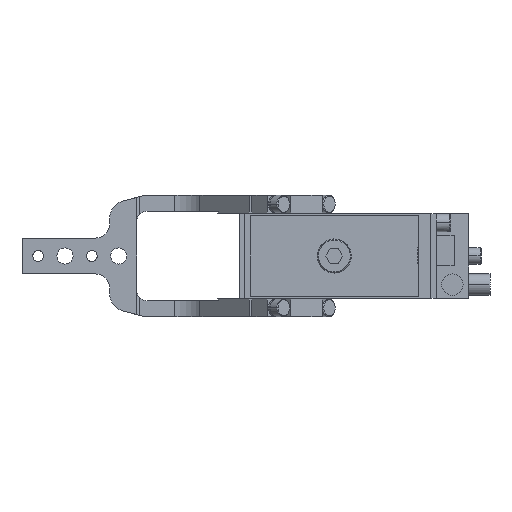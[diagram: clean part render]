
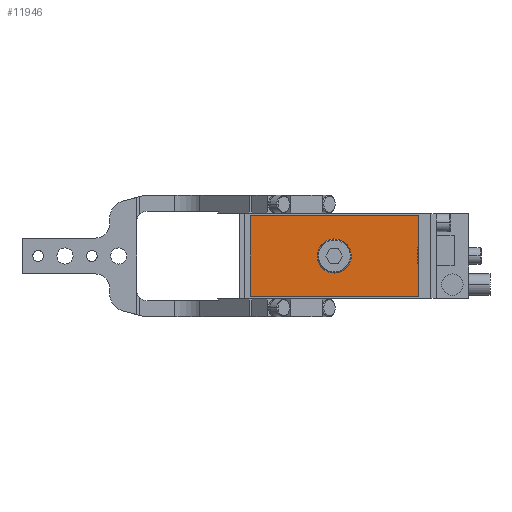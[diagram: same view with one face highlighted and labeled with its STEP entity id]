
A CAD part, left-side view. The second image highlights one B-rep face of the part: STEP entity #11946.
In plain terms, the highlighted planar face has unit normal (-1, 0, 0).
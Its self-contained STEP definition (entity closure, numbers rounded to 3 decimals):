
#73 = DIRECTION ( 'NONE',  ( 0., 0., 1. ) ) ;
#362 = EDGE_LOOP ( 'NONE', ( #12065, #5369, #5264, #2883, #401 ) ) ;
#401 = ORIENTED_EDGE ( 'NONE', *, *, #3123, .T. ) ;
#1135 = VECTOR ( 'NONE', #9761, 1000. ) ;
#1677 = DIRECTION ( 'NONE',  ( 0., -1., 0. ) ) ;
#1744 = CARTESIAN_POINT ( 'NONE',  ( -269.5, -30.5, 0. ) ) ;
#1824 = LINE ( 'NONE', #5804, #1135 ) ;
#1926 = VERTEX_POINT ( 'NONE', #8111 ) ;
#1969 = LINE ( 'NONE', #8988, #7323 ) ;
#2206 = VERTEX_POINT ( 'NONE', #8626 ) ;
#2208 = DIRECTION ( 'NONE',  ( -1., 0., 0. ) ) ;
#2486 = LINE ( 'NONE', #6461, #5563 ) ;
#2665 = AXIS2_PLACEMENT_3D ( 'NONE', #1744, #5722, #1677 ) ;
#2712 = CARTESIAN_POINT ( 'NONE',  ( -269.5, -30.5, -22.5 ) ) ;
#2831 = VECTOR ( 'NONE', #7676, 1000. ) ;
#2883 = ORIENTED_EDGE ( 'NONE', *, *, #7032, .T. ) ;
#3076 = AXIS2_PLACEMENT_3D ( 'NONE', #7945, #2208, #12100 ) ;
#3123 = EDGE_CURVE ( 'NONE', #11519, #3255, #1969, .T. ) ;
#3255 = VERTEX_POINT ( 'NONE', #6420 ) ;
#3369 = CARTESIAN_POINT ( 'NONE',  ( -269.5, -22.163, 4.555 ) ) ;
#3688 = CARTESIAN_POINT ( 'NONE',  ( -269.5, -77.5, 11.25 ) ) ;
#3821 = EDGE_CURVE ( 'NONE', #1926, #9898, #1824, .T. ) ;
#4693 = DIRECTION ( 'NONE',  ( 0., -1., 0. ) ) ;
#4975 = CARTESIAN_POINT ( 'NONE',  ( -269.5, -77.5, -22.5 ) ) ;
#5115 = ORIENTED_EDGE ( 'NONE', *, *, #12113, .F. ) ;
#5264 = ORIENTED_EDGE ( 'NONE', *, *, #5753, .T. ) ;
#5323 = AXIS2_PLACEMENT_3D ( 'NONE', #11612, #6657, #4693 ) ;
#5369 = ORIENTED_EDGE ( 'NONE', *, *, #3821, .T. ) ;
#5558 = VERTEX_POINT ( 'NONE', #3369 ) ;
#5563 = VECTOR ( 'NONE', #7495, 1000. ) ;
#5722 = DIRECTION ( 'NONE',  ( -1., 0., 0. ) ) ;
#5753 = EDGE_CURVE ( 'NONE', #9898, #8904, #2486, .T. ) ;
#5804 = CARTESIAN_POINT ( 'NONE',  ( -269.5, -30.5, 22.5 ) ) ;
#6295 = EDGE_LOOP ( 'NONE', ( #7694, #5115 ) ) ;
#6420 = CARTESIAN_POINT ( 'NONE',  ( -269.5, -77.5, 0. ) ) ;
#6461 = CARTESIAN_POINT ( 'NONE',  ( -269.5, 16.5, 0. ) ) ;
#6657 = DIRECTION ( 'NONE',  ( -1., 0., 0. ) ) ;
#6964 = FACE_OUTER_BOUND ( 'NONE', #362, .T. ) ;
#7032 = EDGE_CURVE ( 'NONE', #8904, #11519, #8435, .T. ) ;
#7323 = VECTOR ( 'NONE', #73, 1000. ) ;
#7495 = DIRECTION ( 'NONE',  ( 0., 0., -1. ) ) ;
#7503 = CARTESIAN_POINT ( 'NONE',  ( -269.5, 16.5, -22.5 ) ) ;
#7676 = DIRECTION ( 'NONE',  ( 0., 0., 1. ) ) ;
#7694 = ORIENTED_EDGE ( 'NONE', *, *, #10837, .F. ) ;
#7945 = CARTESIAN_POINT ( 'NONE',  ( -269.5, 0., 0. ) ) ;
#8063 = CIRCLE ( 'NONE', #2665, 9.5 ) ;
#8111 = CARTESIAN_POINT ( 'NONE',  ( -269.5, -77.5, 22.5 ) ) ;
#8435 = LINE ( 'NONE', #2712, #9277 ) ;
#8626 = CARTESIAN_POINT ( 'NONE',  ( -269.5, -38.837, -4.555 ) ) ;
#8904 = VERTEX_POINT ( 'NONE', #7503 ) ;
#8988 = CARTESIAN_POINT ( 'NONE',  ( -269.5, -77.5, -11.25 ) ) ;
#9277 = VECTOR ( 'NONE', #12662, 1000. ) ;
#9623 = CARTESIAN_POINT ( 'NONE',  ( -269.5, 16.5, 22.5 ) ) ;
#9675 = LINE ( 'NONE', #3688, #2831 ) ;
#9761 = DIRECTION ( 'NONE',  ( 0., 1., 0. ) ) ;
#9898 = VERTEX_POINT ( 'NONE', #9623 ) ;
#10451 = EDGE_CURVE ( 'NONE', #3255, #1926, #9675, .T. ) ;
#10837 = EDGE_CURVE ( 'NONE', #2206, #5558, #10944, .T. ) ;
#10876 = PLANE ( 'NONE',  #3076 ) ;
#10939 = FACE_BOUND ( 'NONE', #6295, .T. ) ;
#10944 = CIRCLE ( 'NONE', #5323, 9.5 ) ;
#11519 = VERTEX_POINT ( 'NONE', #4975 ) ;
#11612 = CARTESIAN_POINT ( 'NONE',  ( -269.5, -30.5, 0. ) ) ;
#11946 = ADVANCED_FACE ( 'NONE', ( #6964, #10939 ), #10876, .T. ) ;
#12065 = ORIENTED_EDGE ( 'NONE', *, *, #10451, .T. ) ;
#12100 = DIRECTION ( 'NONE',  ( 0., 0., 1. ) ) ;
#12113 = EDGE_CURVE ( 'NONE', #5558, #2206, #8063, .T. ) ;
#12662 = DIRECTION ( 'NONE',  ( 0., -1., 0. ) ) ;
